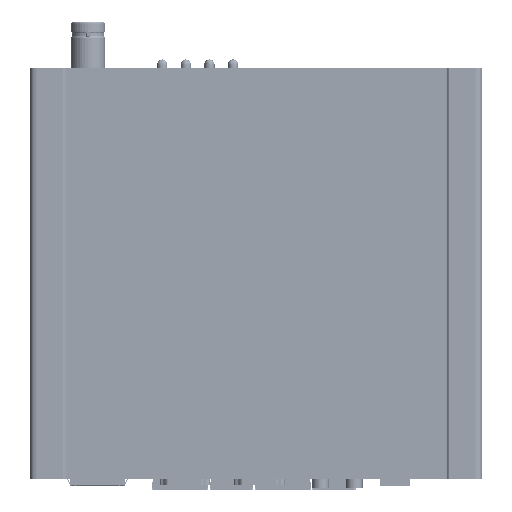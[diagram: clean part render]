
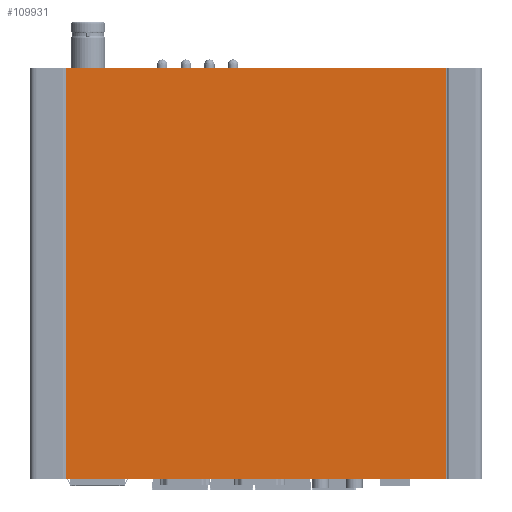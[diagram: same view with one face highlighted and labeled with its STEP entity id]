
A CAD part, front view. The second image highlights one B-rep face of the part: STEP entity #109931.
In plain terms, the highlighted planar face has unit normal (0, -1, 0).
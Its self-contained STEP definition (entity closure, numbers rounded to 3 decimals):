
#89859=DIRECTION('',(1.,0.,0.));
#89860=VECTOR('',#89859,112.86);
#89861=CARTESIAN_POINT('',(-56.431,-16.,122.));
#89862=LINE('',#89861,#89860);
#90661=CARTESIAN_POINT('',(-56.431,-16.,0.));
#90668=DIRECTION('',(-1.,0.,0.));
#90669=VECTOR('',#90668,112.86);
#90670=CARTESIAN_POINT('',(56.43,-16.,0.));
#90671=LINE('',#90670,#90669);
#91336=DIRECTION('',(0.,0.,1.));
#91337=VECTOR('',#91336,122.);
#91338=CARTESIAN_POINT('',(-56.431,-16.,0.));
#91339=LINE('',#91338,#91337);
#91340=DIRECTION('',(0.,0.,-1.));
#91341=VECTOR('',#91340,122.);
#91342=CARTESIAN_POINT('',(56.43,-16.,122.));
#91343=LINE('',#91342,#91341);
#97396=VERTEX_POINT('',#90661);
#97397=CARTESIAN_POINT('',(56.43,-16.,0.));
#97398=VERTEX_POINT('',#97397);
#97405=CARTESIAN_POINT('',(56.43,-16.,122.));
#97406=VERTEX_POINT('',#97405);
#97407=CARTESIAN_POINT('',(-56.431,-16.,122.));
#97408=VERTEX_POINT('',#97407);
#109919=CARTESIAN_POINT('',(56.43,-16.,122.));
#109920=DIRECTION('',(0.,1.,0.));
#109921=DIRECTION('',(0.,0.,1.));
#109922=AXIS2_PLACEMENT_3D('',#109919,#109920,#109921);
#109923=PLANE('',#109922);
#109924=ORIENTED_EDGE('',*,*,#108395,.T.);
#109925=ORIENTED_EDGE('',*,*,#109907,.T.);
#109926=ORIENTED_EDGE('',*,*,#107987,.T.);
#109928=ORIENTED_EDGE('',*,*,#109927,.T.);
#109929=EDGE_LOOP('',(#109924,#109925,#109926,#109928));
#109930=FACE_OUTER_BOUND('',#109929,.F.);
#109931=ADVANCED_FACE('',(#109930),#109923,.F.);
#107987=EDGE_CURVE('',#97408,#97406,#89862,.T.);
#108395=EDGE_CURVE('',#97398,#97396,#90671,.T.);
#109907=EDGE_CURVE('',#97396,#97408,#91339,.T.);
#109927=EDGE_CURVE('',#97406,#97398,#91343,.T.);
